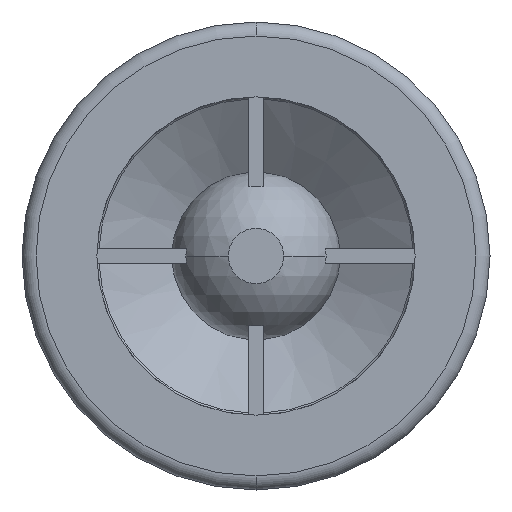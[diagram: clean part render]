
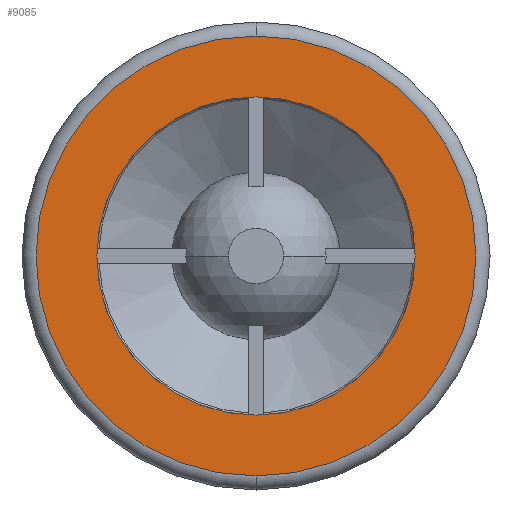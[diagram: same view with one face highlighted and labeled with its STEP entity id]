
A CAD part, front view. The second image highlights one B-rep face of the part: STEP entity #9085.
In plain terms, the highlighted planar face has unit normal (0, -1, 0).
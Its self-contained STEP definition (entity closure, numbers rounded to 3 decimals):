
#178 = VERTEX_POINT ( 'NONE', #2535 ) ;
#179 = VERTEX_POINT ( 'NONE', #2534 ) ;
#180 = EDGE_CURVE ( 'NONE', #178, #179, #2525, .T. ) ;
#397 = EDGE_CURVE ( 'NONE', #179, #178, #2875, .T. ) ;
#695 = VERTEX_POINT ( 'NONE', #3451 ) ;
#696 = EDGE_CURVE ( 'NONE', #695, #8297, #3450, .T. ) ;
#2521 = DIRECTION ( 'NONE',  ( 0., 0., -1. ) ) ;
#2522 = DIRECTION ( 'NONE',  ( 0., -1., 0. ) ) ;
#2523 = CARTESIAN_POINT ( 'NONE',  ( 0., 0., 0. ) ) ;
#2524 = AXIS2_PLACEMENT_3D ( 'NONE', #2523, #2522, #2521 ) ;
#2525 = CIRCLE ( 'NONE', #2524, 17. ) ;
#2534 = CARTESIAN_POINT ( 'NONE',  ( 0., 0., -17. ) ) ;
#2535 = CARTESIAN_POINT ( 'NONE',  ( 0., 0., 17. ) ) ;
#2875 = CIRCLE ( 'NONE', #2939, 17. ) ;
#2936 = DIRECTION ( 'NONE',  ( 0., 0., -1. ) ) ;
#2937 = DIRECTION ( 'NONE',  ( 0., -1., 0. ) ) ;
#2938 = CARTESIAN_POINT ( 'NONE',  ( 0., 0., 0. ) ) ;
#2939 = AXIS2_PLACEMENT_3D ( 'NONE', #2938, #2937, #2936 ) ;
#3446 = DIRECTION ( 'NONE',  ( 0., 0., 1. ) ) ;
#3447 = DIRECTION ( 'NONE',  ( 0., -1., 0. ) ) ;
#3448 = CARTESIAN_POINT ( 'NONE',  ( 0., 0., 0. ) ) ;
#3449 = AXIS2_PLACEMENT_3D ( 'NONE', #3448, #3447, #3446 ) ;
#3450 = CIRCLE ( 'NONE', #3449, 23.5 ) ;
#3451 = CARTESIAN_POINT ( 'NONE',  ( 0., 0., -23.5 ) ) ;
#6645 = CARTESIAN_POINT ( 'NONE',  ( 0., 0., 23.5 ) ) ;
#7290 = DIRECTION ( 'NONE',  ( 0., -1., 0. ) ) ;
#7291 = CARTESIAN_POINT ( 'NONE',  ( 0., 0., 0. ) ) ;
#7292 = AXIS2_PLACEMENT_3D ( 'NONE', #7291, #7290, #7366 ) ;
#7293 = DIRECTION ( 'NONE',  ( 0., 0., 1. ) ) ;
#7294 = DIRECTION ( 'NONE',  ( 0., 1., 0. ) ) ;
#7295 = CARTESIAN_POINT ( 'NONE',  ( -17., 0., 0. ) ) ;
#7296 = CIRCLE ( 'NONE', #7292, 23.5 ) ;
#7297 = AXIS2_PLACEMENT_3D ( 'NONE', #7295, #7294, #7293 ) ;
#7298 = PLANE ( 'NONE',  #7297 ) ;
#7299 = FACE_BOUND ( 'NONE', #9069, .T. ) ;
#7300 = FACE_OUTER_BOUND ( 'NONE', #9079, .T. ) ;
#7366 = DIRECTION ( 'NONE',  ( 0., 0., 1. ) ) ;
#8297 = VERTEX_POINT ( 'NONE', #6645 ) ;
#9065 = ORIENTED_EDGE ( 'NONE', *, *, #180, .F. ) ;
#9068 = ORIENTED_EDGE ( 'NONE', *, *, #696, .T. ) ;
#9069 = EDGE_LOOP ( 'NONE', ( #9070, #9065 ) ) ;
#9070 = ORIENTED_EDGE ( 'NONE', *, *, #397, .F. ) ;
#9078 = ORIENTED_EDGE ( 'NONE', *, *, #9086, .T. ) ;
#9079 = EDGE_LOOP ( 'NONE', ( #9078, #9068 ) ) ;
#9085 = ADVANCED_FACE ( 'NONE', ( #7300, #7299 ), #7298, .F. ) ;
#9086 = EDGE_CURVE ( 'NONE', #8297, #695, #7296, .T. ) ;
